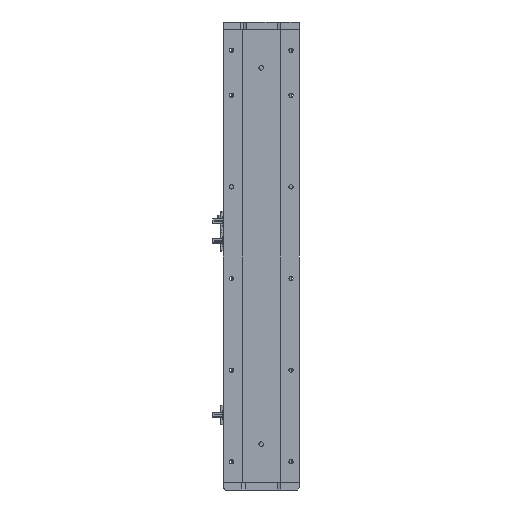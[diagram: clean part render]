
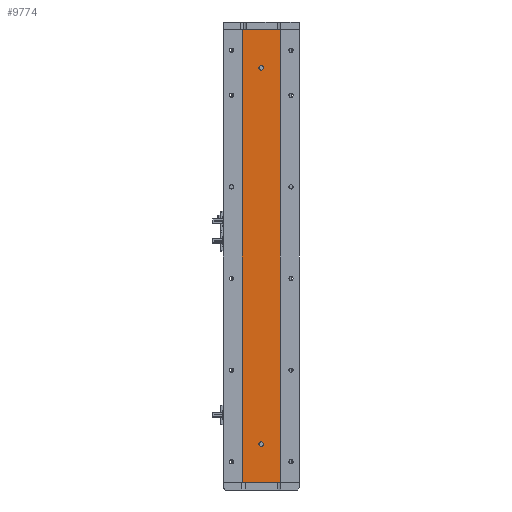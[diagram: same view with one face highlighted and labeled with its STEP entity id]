
A CAD part, left-side view. The second image highlights one B-rep face of the part: STEP entity #9774.
In plain terms, the highlighted planar face has unit normal (-1, 0, 0).
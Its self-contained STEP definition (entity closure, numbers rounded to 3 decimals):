
#571 = AXIS2_PLACEMENT_3D ( 'NONE', #26522, #10101, #29274 ) ;
#789 = CARTESIAN_POINT ( 'NONE',  ( -18.926, 0., 543. ) ) ;
#924 = DIRECTION ( 'NONE',  ( 0., 0., 1. ) ) ;
#1539 = VERTEX_POINT ( 'NONE', #28798 ) ;
#3332 = EDGE_CURVE ( 'NONE', #28680, #8434, #8186, .T. ) ;
#3479 = DIRECTION ( 'NONE',  ( 0., 0., 1. ) ) ;
#5835 = LINE ( 'NONE', #22055, #20395 ) ;
#6311 = FACE_BOUND ( 'NONE', #6631, .T. ) ;
#6629 = DIRECTION ( 'NONE',  ( 1., 0., 0. ) ) ;
#6631 = EDGE_LOOP ( 'NONE', ( #13809, #25867 ) ) ;
#7182 = FACE_BOUND ( 'NONE', #22657, .T. ) ;
#7951 = CARTESIAN_POINT ( 'NONE',  ( -18.926, 0., 540. ) ) ;
#8186 = CIRCLE ( 'NONE', #571, 3. ) ;
#8434 = VERTEX_POINT ( 'NONE', #7951 ) ;
#9774 = ADVANCED_FACE ( 'NONE', ( #6311, #7182, #35391 ), #14498, .F. ) ;
#10101 = DIRECTION ( 'NONE',  ( -1., 0., 0. ) ) ;
#10131 = EDGE_CURVE ( 'NONE', #13404, #24297, #5835, .T. ) ;
#11302 = CIRCLE ( 'NONE', #14034, 3. ) ;
#11628 = LINE ( 'NONE', #12820, #32595 ) ;
#11879 = CIRCLE ( 'NONE', #29024, 3. ) ;
#12743 = ORIENTED_EDGE ( 'NONE', *, *, #15291, .F. ) ;
#12820 = CARTESIAN_POINT ( 'NONE',  ( -18.926, 24.785, 593. ) ) ;
#12901 = EDGE_CURVE ( 'NONE', #1539, #13404, #11628, .T. ) ;
#12998 = AXIS2_PLACEMENT_3D ( 'NONE', #23030, #6629, #25792 ) ;
#13026 = ORIENTED_EDGE ( 'NONE', *, *, #14417, .F. ) ;
#13138 = CARTESIAN_POINT ( 'NONE',  ( -18.926, 0., 50. ) ) ;
#13311 = LINE ( 'NONE', #21182, #27906 ) ;
#13404 = VERTEX_POINT ( 'NONE', #17457 ) ;
#13654 = DIRECTION ( 'NONE',  ( 0., -1., 0. ) ) ;
#13809 = ORIENTED_EDGE ( 'NONE', *, *, #3332, .F. ) ;
#14034 = AXIS2_PLACEMENT_3D ( 'NONE', #13138, #32297, #15907 ) ;
#14417 = EDGE_CURVE ( 'NONE', #17715, #26827, #11879, .T. ) ;
#14498 = PLANE ( 'NONE',  #12998 ) ;
#15291 = EDGE_CURVE ( 'NONE', #30102, #24297, #23808, .T. ) ;
#15907 = DIRECTION ( 'NONE',  ( 0., 0., 1. ) ) ;
#17267 = DIRECTION ( 'NONE',  ( -1., 0., 0. ) ) ;
#17457 = CARTESIAN_POINT ( 'NONE',  ( -18.926, 24.785, 0. ) ) ;
#17715 = VERTEX_POINT ( 'NONE', #26571 ) ;
#18242 = CARTESIAN_POINT ( 'NONE',  ( -18.926, -24.785, 593. ) ) ;
#18417 = DIRECTION ( 'NONE',  ( 0., 0., -1. ) ) ;
#19603 = CARTESIAN_POINT ( 'NONE',  ( -18.926, -24.785, 0. ) ) ;
#19865 = DIRECTION ( 'NONE',  ( -1., 0., 0. ) ) ;
#20395 = VECTOR ( 'NONE', #13654, 1000. ) ;
#20749 = ORIENTED_EDGE ( 'NONE', *, *, #12901, .T. ) ;
#21166 = CARTESIAN_POINT ( 'NONE',  ( -18.926, -24.785, 593. ) ) ;
#21182 = CARTESIAN_POINT ( 'NONE',  ( -18.926, 24.785, 593. ) ) ;
#22055 = CARTESIAN_POINT ( 'NONE',  ( -18.926, 24.785, 0. ) ) ;
#22657 = EDGE_LOOP ( 'NONE', ( #26755, #13026 ) ) ;
#22950 = VECTOR ( 'NONE', #18417, 1000. ) ;
#23030 = CARTESIAN_POINT ( 'NONE',  ( -18.926, 24.785, 593. ) ) ;
#23808 = LINE ( 'NONE', #21166, #22950 ) ;
#24297 = VERTEX_POINT ( 'NONE', #19603 ) ;
#24532 = CIRCLE ( 'NONE', #29717, 3. ) ;
#25342 = EDGE_CURVE ( 'NONE', #8434, #28680, #24532, .T. ) ;
#25665 = EDGE_CURVE ( 'NONE', #1539, #30102, #13311, .T. ) ;
#25792 = DIRECTION ( 'NONE',  ( 0., 0., -1. ) ) ;
#25867 = ORIENTED_EDGE ( 'NONE', *, *, #25342, .F. ) ;
#26522 = CARTESIAN_POINT ( 'NONE',  ( -18.926, 0., 543. ) ) ;
#26571 = CARTESIAN_POINT ( 'NONE',  ( -18.926, 0., 47. ) ) ;
#26755 = ORIENTED_EDGE ( 'NONE', *, *, #29289, .F. ) ;
#26827 = VERTEX_POINT ( 'NONE', #34579 ) ;
#26853 = CARTESIAN_POINT ( 'NONE',  ( -18.926, 0., 546. ) ) ;
#27906 = VECTOR ( 'NONE', #35126, 1000. ) ;
#28680 = VERTEX_POINT ( 'NONE', #26853 ) ;
#28798 = CARTESIAN_POINT ( 'NONE',  ( -18.926, 24.785, 593. ) ) ;
#28801 = EDGE_LOOP ( 'NONE', ( #29861, #12743, #29463, #20749 ) ) ;
#29024 = AXIS2_PLACEMENT_3D ( 'NONE', #33653, #17267, #924 ) ;
#29241 = DIRECTION ( 'NONE',  ( 0., 0., -1. ) ) ;
#29274 = DIRECTION ( 'NONE',  ( 0., 0., 1. ) ) ;
#29289 = EDGE_CURVE ( 'NONE', #26827, #17715, #11302, .T. ) ;
#29463 = ORIENTED_EDGE ( 'NONE', *, *, #25665, .F. ) ;
#29717 = AXIS2_PLACEMENT_3D ( 'NONE', #789, #19865, #3479 ) ;
#29861 = ORIENTED_EDGE ( 'NONE', *, *, #10131, .T. ) ;
#30102 = VERTEX_POINT ( 'NONE', #18242 ) ;
#32297 = DIRECTION ( 'NONE',  ( -1., 0., 0. ) ) ;
#32595 = VECTOR ( 'NONE', #29241, 1000. ) ;
#33653 = CARTESIAN_POINT ( 'NONE',  ( -18.926, 0., 50. ) ) ;
#34579 = CARTESIAN_POINT ( 'NONE',  ( -18.926, 0., 53. ) ) ;
#35126 = DIRECTION ( 'NONE',  ( 0., -1., 0. ) ) ;
#35391 = FACE_OUTER_BOUND ( 'NONE', #28801, .T. ) ;
